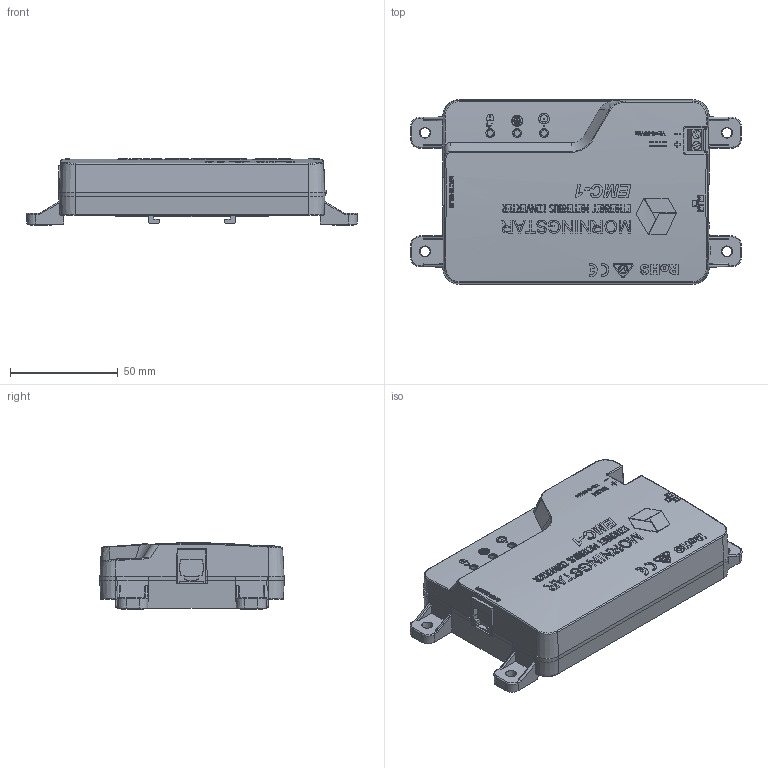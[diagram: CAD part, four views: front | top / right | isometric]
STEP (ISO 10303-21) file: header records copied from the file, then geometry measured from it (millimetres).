
FILE_DESCRIPTION(/* description */ ('Unknown'),/* implementation_level */ '2;1');
FILE_NAME(/* name */ 'EMC',/* time_stamp */ '2017-01-17T14:44:44-05:00',/* author */ ('Unknown'),/* organization */ ('Unknown'),/* preprocessor_version */ 'ST-DEVELOPER v16.7',/* originating_system */ 'DEX',/* authorisation */ $);
FILE_SCHEMA (('AUTOMOTIVE_DESIGN {1 0 10303 214 3 1 1}'));
Products named in the file (8): MS-ASM-00157_pub; MS-001794_pub; MS-001793_pub; MS-ASM-00166_pub; RJ11-right_angle; 2 Pos DIP Switch right angle; RJ-45-right_angle; 2_POS_Screwclamp_5mm_pitch
Assembly tree (7 placements, depth 3):
  MS-ASM-00157_pub
    MS-001794_pub
    MS-001793_pub
    MS-ASM-00166_pub
      RJ11-right_angle
      2 Pos DIP Switch right angle
      RJ-45-right_angle
      2_POS_Screwclamp_5mm_pitch
Bounding box: 153.31 x 85.8 x 30.75 mm (x, y, z)
Volume: 283953 mm3; surface area: 63258.1 mm2
Topology: 6 solids, 6 shells, 1343 faces, 3433 edges, 2269 vertices
Faces by surface type: plane 802, bspline 279, cylinder 200, cone 42, torus 18, sphere 2
Full cylindrical faces by diameter (mm): 0.559 x16, 0.762 x2, 2.921 x2, 3.251 x2, 3.81 x2
Entity records: 81263 total; most frequent: CARTESIAN_POINT 50114, ORIENTED_EDGE 6688, DIRECTION 5622, EDGE_CURVE 3344, VERTEX_POINT 2248, LINE 2064, VECTOR 2064, AXIS2_PLACEMENT_3D 1779
